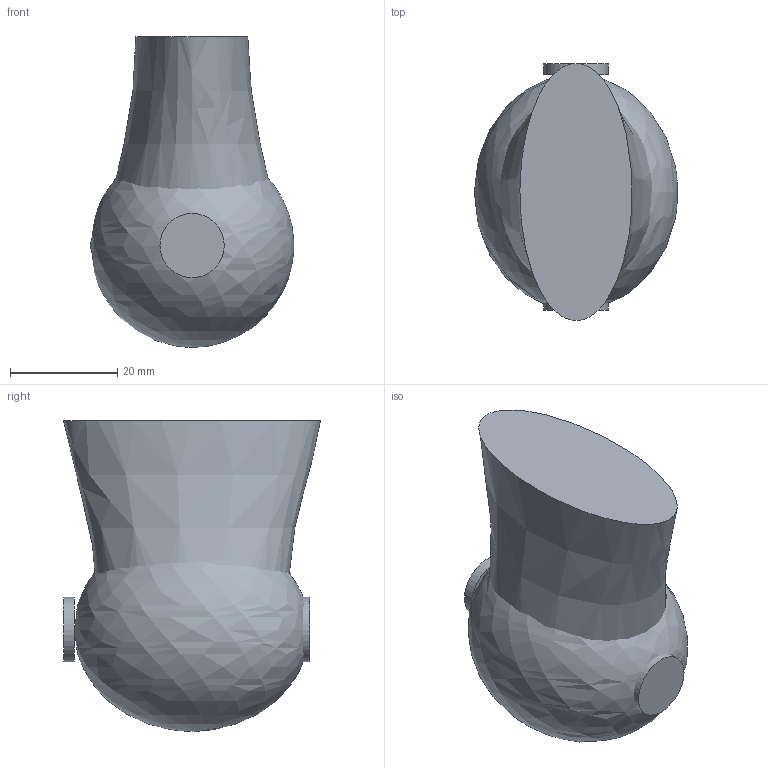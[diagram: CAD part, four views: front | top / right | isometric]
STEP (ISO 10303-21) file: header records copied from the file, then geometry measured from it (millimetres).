
FILE_DESCRIPTION(('FreeCAD Model'),'2;1');
FILE_NAME('Open CASCADE Shape Model','2026-10-05T09:22:54',('Author'),( ''),'Open CASCADE STEP processor 7.8','FreeCAD','Unknown');
FILE_SCHEMA(('AUTOMOTIVE_DESIGN { 1 0 10303 214 1 1 1 1 }'));
Length unit declared in the file: millimetre
Products named in the file (5): Export_wrist_pitch; WristFlexionBall; WristCarpalCoupler; WristFlexionCap-1; WristFlexionCap1
Assembly tree (4 placements, depth 2):
  Export_wrist_pitch
    WristFlexionBall
    WristCarpalCoupler
    WristFlexionCap-1
    WristFlexionCap1
Bounding box: 37.97 x 47.99 x 58 mm (x, y, z)
Volume: 57062.9 mm3; surface area: 10454.3 mm2
Topology: 4 solids, 4 shells, 10 faces, 12 edges, 8 vertices
Faces by surface type: plane 6, bspline 2, cylinder 2
Full cylindrical faces by diameter (mm): 12 x2
Entity records: 368 total; most frequent: CARTESIAN_POINT 155, DIRECTION 36, ORIENTED_EDGE 18, AXIS2_PLACEMENT_3D 17, ADVANCED_FACE 10, FACE_BOUND 10, PRODUCT_DEFINITION_SHAPE 9, EDGE_LOOP 9
